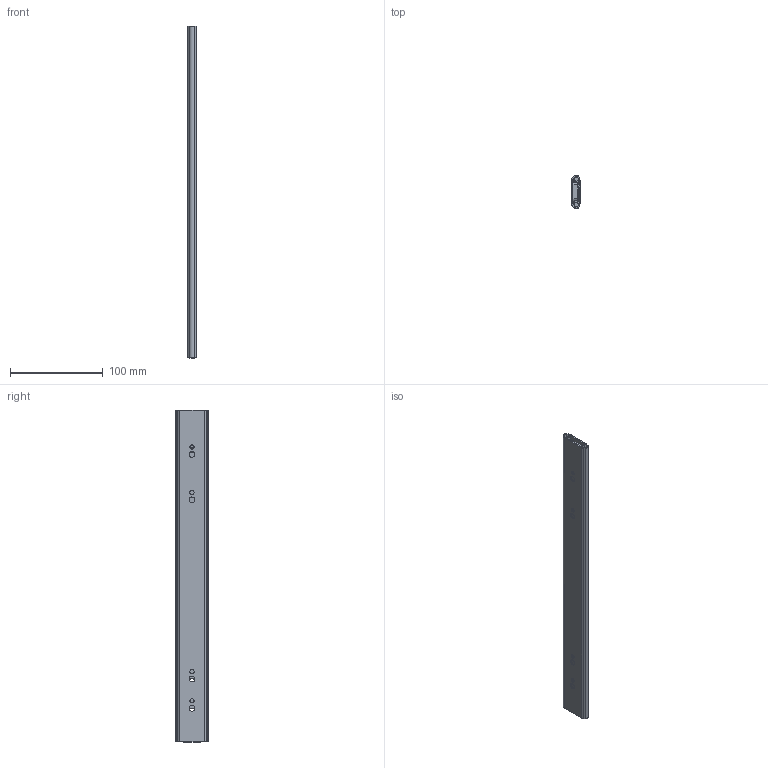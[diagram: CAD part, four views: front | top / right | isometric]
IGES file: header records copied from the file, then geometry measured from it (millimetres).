
Global section: file name: DR_L2-350; native system: Autodesk Inventor 2015; preprocessor: unknown; author: user; date: 20170928.104800; units: millimetre
Bounding box: 9.55 x 35.3 x 357 mm (x, y, z)
Volume: 50739 mm3; surface area: 72941.8 mm2
Topology: 3 solids, 3 shells, 117 faces, 328 edges, 218 vertices
Faces by surface type: bspline 117
